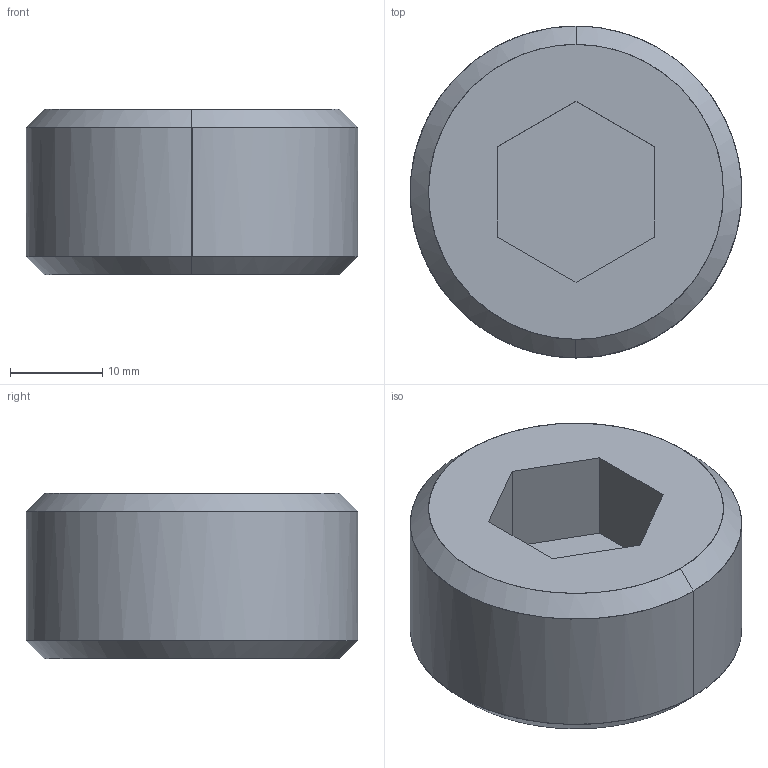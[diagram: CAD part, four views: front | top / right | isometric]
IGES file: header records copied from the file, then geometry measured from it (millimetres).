
Global section: file name: E:\UnigraphicsGraphicData\MISUMI_PRESS-PARTS\IGES\3d_msw36_00516_r00.igs; native system: NX V5.0; preprocessor: UGS NX IGES V5.0; author: MISUMI; date: 20110105.161522; units: millimetre
Bounding box: 35.96 x 36 x 18 mm (x, y, z)
Surface area: 4385.3 mm2 (no closed solid volume)
Topology: 0 solids, 0 shells, 15 faces, 92 edges, 92 vertices
Faces by surface type: bspline 15
